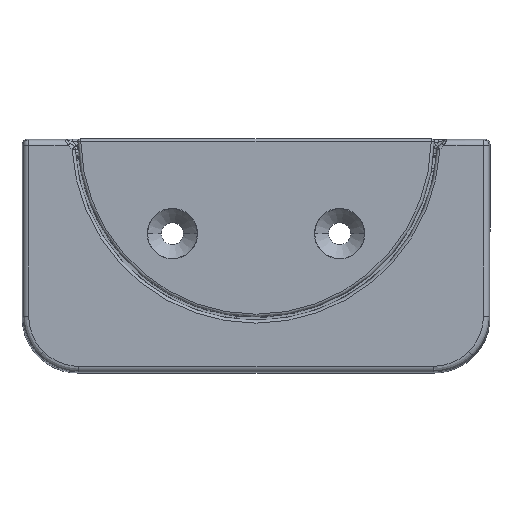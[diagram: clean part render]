
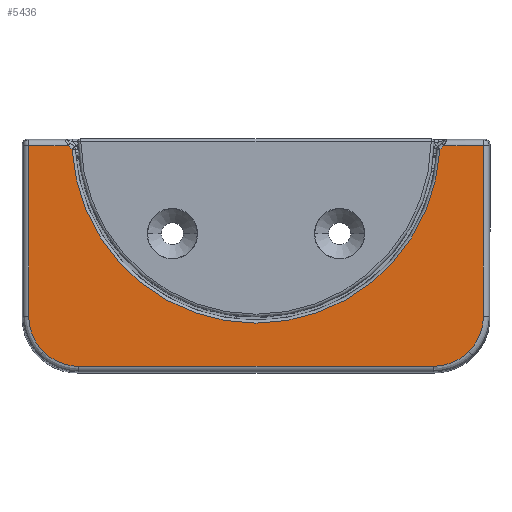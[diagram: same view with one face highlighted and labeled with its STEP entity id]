
A CAD part, top view. The second image highlights one B-rep face of the part: STEP entity #5436.
In plain terms, the highlighted planar face has unit normal (0, 0, 1).
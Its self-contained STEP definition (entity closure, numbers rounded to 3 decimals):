
#233 = LINE ( 'NONE', #6116, #13728 ) ;
#283 = CARTESIAN_POINT ( 'NONE',  ( -38.164, -38.164, 13. ) ) ;
#399 = ORIENTED_EDGE ( 'NONE', *, *, #12975, .T. ) ;
#401 = AXIS2_PLACEMENT_3D ( 'NONE', #5846, #1144, #14058 ) ;
#508 = VERTEX_POINT ( 'NONE', #10783 ) ;
#601 = EDGE_LOOP ( 'NONE', ( #637, #7908, #11956, #9399, #2831, #10263, #7326, #2797, #4344, #12338, #399, #10852 ) ) ;
#637 = ORIENTED_EDGE ( 'NONE', *, *, #1003, .T. ) ;
#781 = VERTEX_POINT ( 'NONE', #6832 ) ;
#1003 = EDGE_CURVE ( 'NONE', #1546, #781, #8298, .T. ) ;
#1108 = CARTESIAN_POINT ( 'NONE',  ( -33.128, -1.747, 13. ) ) ;
#1140 = CARTESIAN_POINT ( 'NONE',  ( 40.799, -31.8, 13. ) ) ;
#1144 = DIRECTION ( 'NONE',  ( 0., 0., 1. ) ) ;
#1324 = EDGE_CURVE ( 'NONE', #11121, #10344, #11112, .T. ) ;
#1331 = CARTESIAN_POINT ( 'NONE',  ( 0., -1.201, 13. ) ) ;
#1546 = VERTEX_POINT ( 'NONE', #12102 ) ;
#1713 = VERTEX_POINT ( 'NONE', #13416 ) ;
#2029 = VECTOR ( 'NONE', #4296, 1000. ) ;
#2067 = CARTESIAN_POINT ( 'NONE',  ( -40.799, -1.201, 13. ) ) ;
#2249 = CARTESIAN_POINT ( 'NONE',  ( 33.453, -1.44, 13. ) ) ;
#2601 = CARTESIAN_POINT ( 'NONE',  ( 38.164, -38.164, 13. ) ) ;
#2652 = EDGE_CURVE ( 'NONE', #12411, #4116, #5641, .T. ) ;
#2721 = VERTEX_POINT ( 'NONE', #7854 ) ;
#2733 = CARTESIAN_POINT ( 'NONE',  ( 40.799, -34.219, 13. ) ) ;
#2797 = ORIENTED_EDGE ( 'NONE', *, *, #2652, .T. ) ;
#2831 = ORIENTED_EDGE ( 'NONE', *, *, #9925, .T. ) ;
#3306 = EDGE_CURVE ( 'NONE', #14938, #12687, #3812, .T. ) ;
#3434 = LINE ( 'NONE', #15028, #2029 ) ;
#3466 = CARTESIAN_POINT ( 'NONE',  ( 40.799, -0.218, 13. ) ) ;
#3812 = LINE ( 'NONE', #1331, #14389 ) ;
#4116 = VERTEX_POINT ( 'NONE', #11511 ) ;
#4296 = DIRECTION ( 'NONE',  ( -1., 0., 0. ) ) ;
#4344 = ORIENTED_EDGE ( 'NONE', *, *, #11929, .T. ) ;
#4540 = CARTESIAN_POINT ( 'NONE',  ( -33.596, -1.303, 13. ) ) ;
#4587 = CARTESIAN_POINT ( 'NONE',  ( 33.579, -1.32, 13. ) ) ;
#4933 = DIRECTION ( 'NONE',  ( 0., -1., 0. ) ) ;
#5379 = LINE ( 'NONE', #10162, #11749 ) ;
#5436 = ADVANCED_FACE ( 'NONE', ( #12882 ), #7181, .T. ) ;
#5641 =( BOUNDED_CURVE ( )  B_SPLINE_CURVE ( 3, ( #8578, #13326, #11003, #2601 ),
 .UNSPECIFIED., .F., .T. ) 
 B_SPLINE_CURVE_WITH_KNOTS ( ( 4, 4 ),
 ( 5.498, 6.283 ),
 .UNSPECIFIED. ) 
 CURVE ( )  GEOMETRIC_REPRESENTATION_ITEM ( )  RATIONAL_B_SPLINE_CURVE ( ( 1., 0.949, 0.949, 1. ) ) 
 REPRESENTATION_ITEM ( '' )  );
#5729 = EDGE_CURVE ( 'NONE', #781, #14938, #11097, .T. ) ;
#5846 = CARTESIAN_POINT ( 'NONE',  ( 0., 0., 13. ) ) ;
#5890 = CARTESIAN_POINT ( 'NONE',  ( -33.38, -1.508, 13. ) ) ;
#6116 = CARTESIAN_POINT ( 'NONE',  ( -40.799, 0., 13. ) ) ;
#6442 = DIRECTION ( 'NONE',  ( 0., 0., -1. ) ) ;
#6832 = CARTESIAN_POINT ( 'NONE',  ( -33.001, -1.866, 13. ) ) ;
#6874 = CARTESIAN_POINT ( 'NONE',  ( 33.218, -1.662, 13. ) ) ;
#6989 = CARTESIAN_POINT ( 'NONE',  ( -33.704, -1.201, 13. ) ) ;
#7035 = CARTESIAN_POINT ( 'NONE',  ( 33.001, -1.867, 13. ) ) ;
#7112 = CARTESIAN_POINT ( 'NONE',  ( 33.327, -1.559, 13. ) ) ;
#7181 = PLANE ( 'NONE',  #401 ) ;
#7326 = ORIENTED_EDGE ( 'NONE', *, *, #12160, .T. ) ;
#7377 = VECTOR ( 'NONE', #10613, 1000. ) ;
#7383 = CARTESIAN_POINT ( 'NONE',  ( 0., 0., 13. ) ) ;
#7529 = CARTESIAN_POINT ( 'NONE',  ( 40.799, -31.8, 13. ) ) ;
#7568 = CARTESIAN_POINT ( 'NONE',  ( -31.8, -40.799, 13. ) ) ;
#7585 = CARTESIAN_POINT ( 'NONE',  ( -40.799, -31.8, 13. ) ) ;
#7854 = CARTESIAN_POINT ( 'NONE',  ( 33.705, -1.201, 13. ) ) ;
#7908 = ORIENTED_EDGE ( 'NONE', *, *, #5729, .T. ) ;
#8102 = CARTESIAN_POINT ( 'NONE',  ( 40.799, -1.201, 13. ) ) ;
#8298 = CIRCLE ( 'NONE', #10537, 33.054 ) ;
#8365 = EDGE_CURVE ( 'NONE', #2721, #1546, #13423, .T. ) ;
#8401 = CARTESIAN_POINT ( 'NONE',  ( -33.254, -1.627, 13. ) ) ;
#8485 =( BOUNDED_CURVE ( )  B_SPLINE_CURVE ( 3, ( #283, #14674, #8668, #7568 ),
 .UNSPECIFIED., .F., .F. ) 
 B_SPLINE_CURVE_WITH_KNOTS ( ( 4, 4 ),
 ( 0., 0.785 ),
 .UNSPECIFIED. ) 
 CURVE ( )  GEOMETRIC_REPRESENTATION_ITEM ( )  RATIONAL_B_SPLINE_CURVE ( ( 1., 0.949, 0.949, 1. ) ) 
 REPRESENTATION_ITEM ( '' )  );
#8578 = CARTESIAN_POINT ( 'NONE',  ( 31.8, -40.799, 13. ) ) ;
#8630 = CARTESIAN_POINT ( 'NONE',  ( -38.164, -38.164, 13. ) ) ;
#8668 = CARTESIAN_POINT ( 'NONE',  ( -34.219, -40.799, 13. ) ) ;
#8710 = CARTESIAN_POINT ( 'NONE',  ( 39.874, -36.454, 13. ) ) ;
#8762 = CARTESIAN_POINT ( 'NONE',  ( -38.164, -38.164, 13. ) ) ;
#9140 = DIRECTION ( 'NONE',  ( 1., 0., 0. ) ) ;
#9348 =( BOUNDED_CURVE ( )  B_SPLINE_CURVE ( 3, ( #7585, #13669, #10018, #8762 ),
 .UNSPECIFIED., .F., .F. ) 
 B_SPLINE_CURVE_WITH_KNOTS ( ( 4, 4 ),
 ( 5.498, 6.283 ),
 .UNSPECIFIED. ) 
 CURVE ( )  GEOMETRIC_REPRESENTATION_ITEM ( )  RATIONAL_B_SPLINE_CURVE ( ( 1., 0.949, 0.949, 1. ) ) 
 REPRESENTATION_ITEM ( '' )  );
#9399 = ORIENTED_EDGE ( 'NONE', *, *, #9566, .T. ) ;
#9566 = EDGE_CURVE ( 'NONE', #12687, #508, #233, .T. ) ;
#9880 = DIRECTION ( 'NONE',  ( -1., 0., 0. ) ) ;
#9925 = EDGE_CURVE ( 'NONE', #508, #13271, #9348, .T. ) ;
#10018 = CARTESIAN_POINT ( 'NONE',  ( -39.874, -36.454, 13. ) ) ;
#10162 = CARTESIAN_POINT ( 'NONE',  ( 0., -40.799, 13. ) ) ;
#10263 = ORIENTED_EDGE ( 'NONE', *, *, #13443, .T. ) ;
#10344 = VERTEX_POINT ( 'NONE', #8102 ) ;
#10516 = CARTESIAN_POINT ( 'NONE',  ( -33.001, -1.866, 13. ) ) ;
#10537 = AXIS2_PLACEMENT_3D ( 'NONE', #7383, #6442, #11143 ) ;
#10613 = DIRECTION ( 'NONE',  ( 0., 1., 0. ) ) ;
#10783 = CARTESIAN_POINT ( 'NONE',  ( -40.799, -31.8, 13. ) ) ;
#10852 = ORIENTED_EDGE ( 'NONE', *, *, #8365, .T. ) ;
#11003 = CARTESIAN_POINT ( 'NONE',  ( 36.454, -39.874, 13. ) ) ;
#11093 = CARTESIAN_POINT ( 'NONE',  ( 31.8, -40.799, 13. ) ) ;
#11097 = B_SPLINE_CURVE_WITH_KNOTS ( 'NONE', 3,
 ( #10516, #1108, #8401, #5890, #15264, #4540, #6989 ),
 .UNSPECIFIED., .F., .F.,
 ( 4, 3, 4 ),
 ( 0., 0.001, 0.001 ),
 .UNSPECIFIED. ) ;
#11112 = LINE ( 'NONE', #3466, #7377 ) ;
#11121 = VERTEX_POINT ( 'NONE', #1140 ) ;
#11143 = DIRECTION ( 'NONE',  ( 1., 0., 0. ) ) ;
#11367 = CARTESIAN_POINT ( 'NONE',  ( -33.704, -1.201, 13. ) ) ;
#11511 = CARTESIAN_POINT ( 'NONE',  ( 38.164, -38.164, 13. ) ) ;
#11749 = VECTOR ( 'NONE', #9140, 1000. ) ;
#11929 = EDGE_CURVE ( 'NONE', #4116, #11121, #14854, .T. ) ;
#11956 = ORIENTED_EDGE ( 'NONE', *, *, #3306, .T. ) ;
#11966 = CARTESIAN_POINT ( 'NONE',  ( 33.11, -1.764, 13. ) ) ;
#12102 = CARTESIAN_POINT ( 'NONE',  ( 33.001, -1.867, 13. ) ) ;
#12160 = EDGE_CURVE ( 'NONE', #1713, #12411, #5379, .T. ) ;
#12338 = ORIENTED_EDGE ( 'NONE', *, *, #1324, .T. ) ;
#12411 = VERTEX_POINT ( 'NONE', #11093 ) ;
#12687 = VERTEX_POINT ( 'NONE', #2067 ) ;
#12882 = FACE_OUTER_BOUND ( 'NONE', #601, .T. ) ;
#12975 = EDGE_CURVE ( 'NONE', #10344, #2721, #3434, .T. ) ;
#13047 = CARTESIAN_POINT ( 'NONE',  ( 33.705, -1.201, 13. ) ) ;
#13271 = VERTEX_POINT ( 'NONE', #8630 ) ;
#13326 = CARTESIAN_POINT ( 'NONE',  ( 34.219, -40.799, 13. ) ) ;
#13416 = CARTESIAN_POINT ( 'NONE',  ( -31.8, -40.799, 13. ) ) ;
#13423 = B_SPLINE_CURVE_WITH_KNOTS ( 'NONE', 3,
 ( #13047, #4587, #2249, #7112, #6874, #11966, #7035 ),
 .UNSPECIFIED., .F., .F.,
 ( 4, 3, 4 ),
 ( 0., 0.001, 0.001 ),
 .UNSPECIFIED. ) ;
#13443 = EDGE_CURVE ( 'NONE', #13271, #1713, #8485, .T. ) ;
#13669 = CARTESIAN_POINT ( 'NONE',  ( -40.799, -34.219, 13. ) ) ;
#13728 = VECTOR ( 'NONE', #4933, 1000. ) ;
#14058 = DIRECTION ( 'NONE',  ( 1., 0., 0. ) ) ;
#14389 = VECTOR ( 'NONE', #9880, 1000. ) ;
#14674 = CARTESIAN_POINT ( 'NONE',  ( -36.454, -39.874, 13. ) ) ;
#14711 = CARTESIAN_POINT ( 'NONE',  ( 38.164, -38.164, 13. ) ) ;
#14854 =( BOUNDED_CURVE ( )  B_SPLINE_CURVE ( 3, ( #14711, #8710, #2733, #7529 ),
 .UNSPECIFIED., .F., .F. ) 
 B_SPLINE_CURVE_WITH_KNOTS ( ( 4, 4 ),
 ( 0., 0.785 ),
 .UNSPECIFIED. ) 
 CURVE ( )  GEOMETRIC_REPRESENTATION_ITEM ( )  RATIONAL_B_SPLINE_CURVE ( ( 1., 0.949, 0.949, 1. ) ) 
 REPRESENTATION_ITEM ( '' )  );
#14938 = VERTEX_POINT ( 'NONE', #11367 ) ;
#15028 = CARTESIAN_POINT ( 'NONE',  ( 0., -1.201, 13. ) ) ;
#15264 = CARTESIAN_POINT ( 'NONE',  ( -33.488, -1.405, 13. ) ) ;
